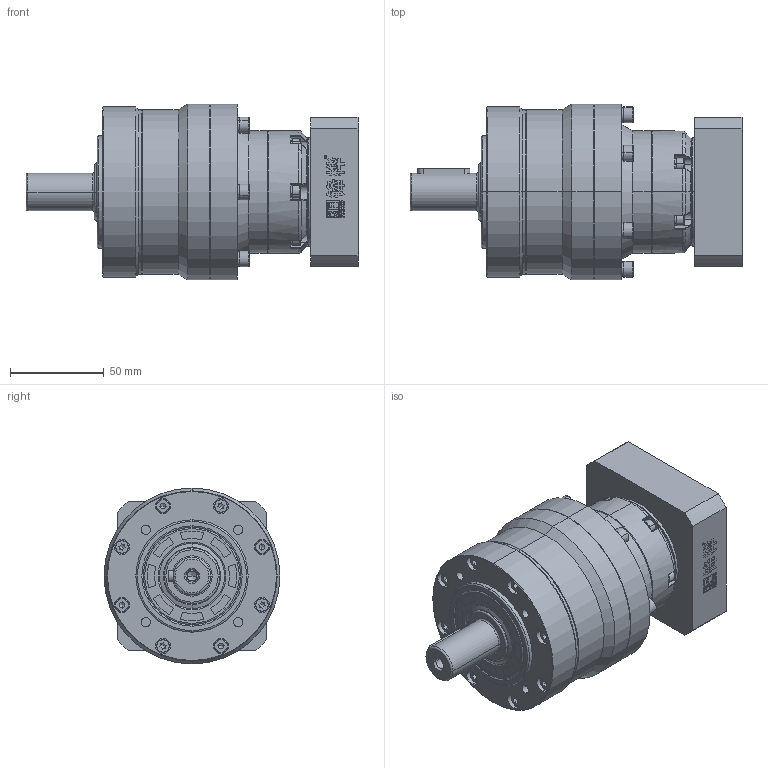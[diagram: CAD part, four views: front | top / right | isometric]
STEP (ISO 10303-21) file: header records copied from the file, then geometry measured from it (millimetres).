
FILE_DESCRIPTION (( 'STEP AP214' ), '1' );
FILE_NAME ('FE090-L2-S2-P2 19-70-90-M5.STEP', '2021-04-23T07:35:33', ( 'Microsoft' ), ( 'Microsoft China' ), 'SwSTEP 2.0', 'SolidWorks 2016', '' );
FILE_SCHEMA (( 'AUTOMOTIVE_DESIGN' ));
Length unit declared in the file: millimetre
Products named in the file (13): A倰す瑩 6-28; M4-10樓粟菜; 蚐猾30526; 怀堤俴陎殤FE090-20粣; 内齿圈FE080; FE090-L2-S2-P2 19-70-90-M5; 怀堤傷褲极FE080; M5-12樓粟菜; 11-输入法兰FE060D-50-70-M5; 输入太阳齿轮060D-14; 坶踡遠18-37-12(1); 3-输入端壳体FE064D; 一级内齿圈壳体FE060D
Assembly tree (34 placements, depth 2):
  FE090-L2-S2-P2 19-70-90-M5
    内齿圈FE080
    怀堤俴陎殤FE090-20粣
    蚐猾30526
    M4-10樓粟菜  x18
    A倰す瑩 6-28
    一级内齿圈壳体FE060D
    3-输入端壳体FE064D
    坶踡遠18-37-12(1)
    输入太阳齿轮060D-14
    11-输入法兰FE060D-50-70-M5
    M5-12樓粟菜  x6
    怀堤傷褲极FE080
Bounding box: 177.5 x 94 x 94 mm (x, y, z)
Volume: 710234.5 mm3; surface area: 137571.6 mm2
Topology: 12 solids, 61 shells, 1605 faces, 4011 edges, 2572 vertices
Faces by surface type: plane 672, cylinder 536, bspline 164, cone 158, torus 75
Entity records: 42303 total; most frequent: CARTESIAN_POINT 8603, ORIENTED_EDGE 4855, DIRECTION 4372, EDGE_CURVE 2434, VERTEX_POINT 1587, AXIS2_PLACEMENT_3D 1529, LINE 1314, VECTOR 1314
